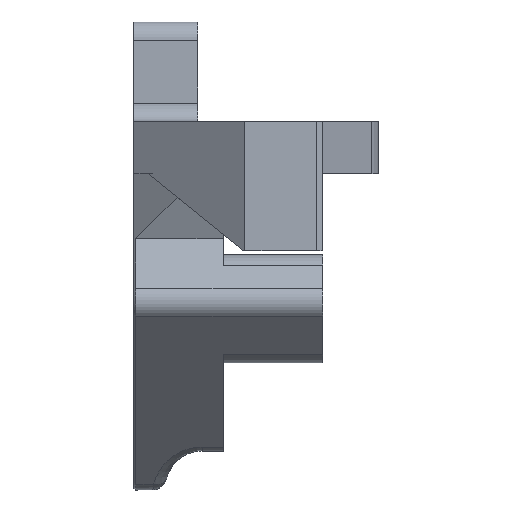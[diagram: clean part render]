
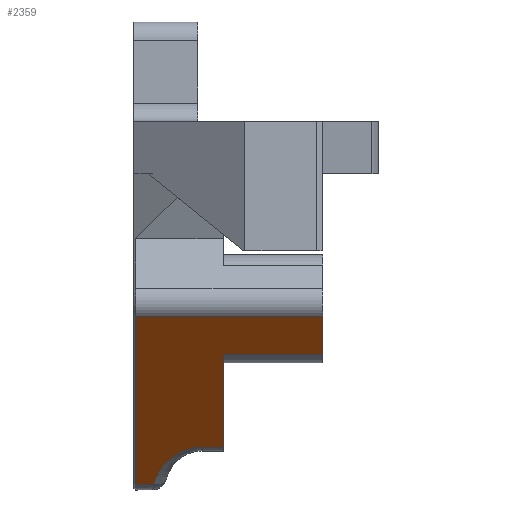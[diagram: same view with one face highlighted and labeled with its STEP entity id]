
A CAD part, left-side view. The second image highlights one B-rep face of the part: STEP entity #2359.
In plain terms, the highlighted planar face has unit normal (-0.707, 0, -0.707).
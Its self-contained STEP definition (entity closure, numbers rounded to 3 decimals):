
#26=ELLIPSE('',#2526,7.778,5.5);
#66=PLANE('',#2544);
#171=FACE_OUTER_BOUND('',#317,.T.);
#317=EDGE_LOOP('',(#1789,#1790,#1791,#1792,#1793,#1794,#1795,#1796));
#640=LINE('',#3876,#840);
#648=LINE('',#4056,#848);
#649=LINE('',#4058,#849);
#650=LINE('',#4060,#850);
#651=LINE('',#4062,#851);
#652=LINE('',#4064,#852);
#653=LINE('',#4065,#853);
#840=VECTOR('',#2856,10.);
#848=VECTOR('',#2908,10.);
#849=VECTOR('',#2909,10.);
#850=VECTOR('',#2910,10.);
#851=VECTOR('',#2911,10.);
#852=VECTOR('',#2912,10.);
#853=VECTOR('',#2913,2.133);
#1079=VERTEX_POINT('',#3873);
#1080=VERTEX_POINT('',#3875);
#1082=VERTEX_POINT('',#3922);
#1098=VERTEX_POINT('',#4055);
#1099=VERTEX_POINT('',#4057);
#1100=VERTEX_POINT('',#4059);
#1101=VERTEX_POINT('',#4061);
#1102=VERTEX_POINT('',#4063);
#1334=EDGE_CURVE('',#1079,#1080,#640,.T.);
#1339=EDGE_CURVE('',#1080,#1082,#26,.T.);
#1361=EDGE_CURVE('',#1079,#1098,#648,.T.);
#1362=EDGE_CURVE('',#1099,#1098,#649,.T.);
#1363=EDGE_CURVE('',#1100,#1099,#650,.T.);
#1364=EDGE_CURVE('',#1101,#1100,#651,.T.);
#1365=EDGE_CURVE('',#1102,#1101,#652,.T.);
#1366=EDGE_CURVE('',#1082,#1102,#653,.T.);
#1789=ORIENTED_EDGE('',*,*,#1339,.F.);
#1790=ORIENTED_EDGE('',*,*,#1334,.F.);
#1791=ORIENTED_EDGE('',*,*,#1361,.T.);
#1792=ORIENTED_EDGE('',*,*,#1362,.F.);
#1793=ORIENTED_EDGE('',*,*,#1363,.F.);
#1794=ORIENTED_EDGE('',*,*,#1364,.F.);
#1795=ORIENTED_EDGE('',*,*,#1365,.F.);
#1796=ORIENTED_EDGE('',*,*,#1366,.F.);
#2359=ADVANCED_FACE('',(#171),#66,.T.);
#2526=AXIS2_PLACEMENT_3D('',#3926,#2864,#2865);
#2544=AXIS2_PLACEMENT_3D('',#4054,#2906,#2907);
#2856=DIRECTION('',(0.,1.,0.));
#2864=DIRECTION('center_axis',(-0.707,0.,
-0.707));
#2865=DIRECTION('ref_axis',(-0.707,0.,0.707));
#2906=DIRECTION('center_axis',(-0.707,0.,
-0.707));
#2907=DIRECTION('ref_axis',(0.707,0.,-0.707));
#2908=DIRECTION('',(-0.707,0.,0.707));
#2909=DIRECTION('',(0.,1.,0.));
#2910=DIRECTION('',(0.707,0.,-0.707));
#2911=DIRECTION('',(0.,-1.,0.));
#2912=DIRECTION('',(-0.707,0.,0.707));
#2913=DIRECTION('',(0.,1.,0.));
#3873=CARTESIAN_POINT('',(18.839,42.458,2.172));
#3875=CARTESIAN_POINT('',(18.839,44.75,2.172));
#3876=CARTESIAN_POINT('',(18.839,48.454,2.172));
#3922=CARTESIAN_POINT('',(22.898,50.058,-1.887));
#3926=CARTESIAN_POINT('Origin',(24.339,44.75,-3.328));
#4054=CARTESIAN_POINT('Origin',(4.55,51.908,16.462));
#4055=CARTESIAN_POINT('',(8.775,42.458,12.237));
#4056=CARTESIAN_POINT('',(6.651,42.458,14.36));
#4057=CARTESIAN_POINT('',(8.775,31.62,12.237));
#4058=CARTESIAN_POINT('',(8.775,46.636,12.237));
#4059=CARTESIAN_POINT('',(4.55,31.62,16.462));
#4060=CARTESIAN_POINT('',(10.867,31.62,10.145));
#4061=CARTESIAN_POINT('',(4.55,52.008,16.462));
#4062=CARTESIAN_POINT('',(4.55,40.858,16.462));
#4063=CARTESIAN_POINT('',(22.898,52.008,-1.887));
#4064=CARTESIAN_POINT('',(10.867,52.008,10.145));
#4065=CARTESIAN_POINT('',(22.898,50.261,-1.887));
